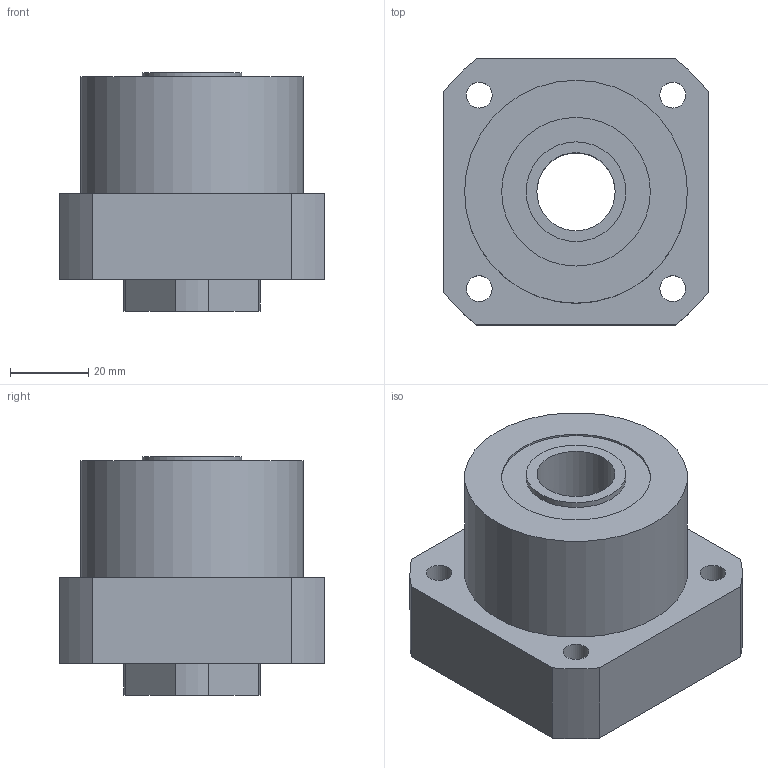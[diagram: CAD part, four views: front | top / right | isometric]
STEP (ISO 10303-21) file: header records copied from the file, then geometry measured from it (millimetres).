
FILE_DESCRIPTION(/* description */ (''),/* implementation_level */ '2;1');
FILE_NAME(/* name */ 'C:\Users\tenki620635\Desktop\官網\圖面\軸承座\3D\setp檔\FK20-Atype.stp',/* time_stamp */ '2020-12-18T19:54:42+08:00',/* author */ ('tenki620635'),/* organization */ (''),/* preprocessor_version */ 'ST-DEVELOPER v15.2',/* originating_system */ 'Autodesk Inventor 2014',/* authorisation */ '');
FILE_SCHEMA (('AUTOMOTIVE_DESIGN { 1 0 10303 214 3 1 1 }'));
Length unit declared in the file: millimetre
Products named in the file (1): FK20-Atype
Bounding box: 68 x 68 x 61 mm (x, y, z)
Volume: 156264.3 mm3; surface area: 27791.7 mm2
Topology: 1 solids, 1 shells, 46 faces, 106 edges, 72 vertices
Faces by surface type: cylinder 25, plane 21
Full cylindrical faces by diameter (mm): 3.242 x2, 6.6 x4, 11 x4, 20 x1, 25.5 x2, 27 x1, 38 x2, 57 x1
Entity records: 1375 total; most frequent: CARTESIAN_POINT 335, DIRECTION 218, ORIENTED_EDGE 168, AXIS2_PLACEMENT_3D 93, EDGE_LOOP 88, EDGE_CURVE 84, VERTEX_POINT 68, FACE_BOUND 52
